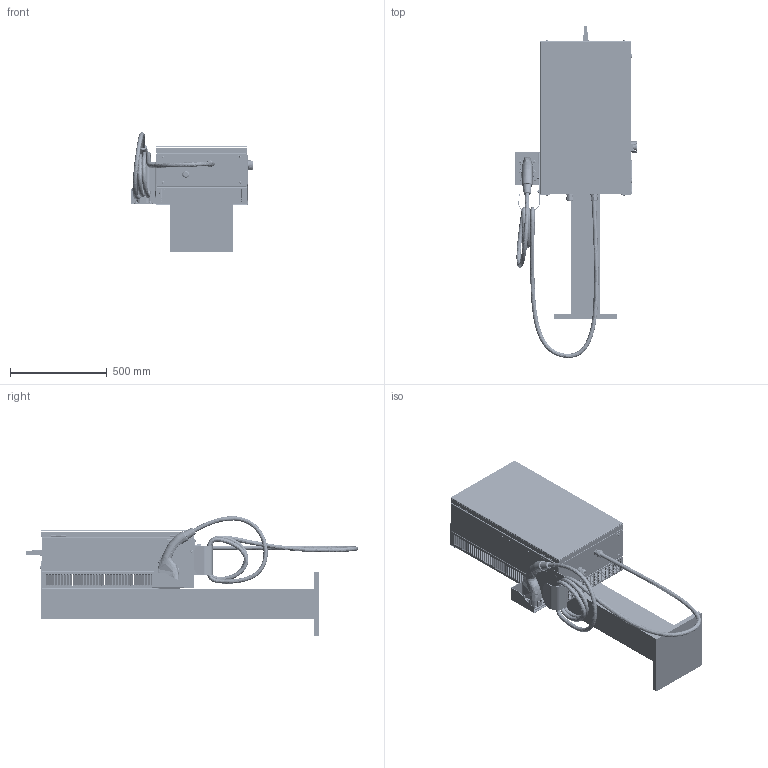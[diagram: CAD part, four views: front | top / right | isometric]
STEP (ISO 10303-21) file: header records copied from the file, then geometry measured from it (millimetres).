
FILE_DESCRIPTION((''),'2;1');
FILE_NAME('CPE100_STAND_ASM','2015-06-18T',('pcadiz'),(''),'PRO/ENGINEER BY PARAMETRIC TECHNOLOGY CORPORATION, 2011490','PRO/ENGINEER BY PARAMETRIC TECHNOLOGY CORPORATION, 2011490','');
FILE_SCHEMA(('CONFIG_CONTROL_DESIGN'));
Length unit declared in the file: inch
Products named in the file (85): CPE100_STAND; NONE; CUT-EXTRUDE1_1_; _61391-881_DZI_STANDARD_ASM; 1C_J-6000_01; ZAMEK_ASM; 87550790_87550790; FXVIS012307; MKACC012635; CSETI013226; SOCKET_HEAD_CAP_SCREW_DIN_DIN_9; MKBRN012753_POSITION_DES_EPARGN; FLUSH_STUD_PMM2_PEM_FHS-M6-18_-; 62349-045_DZI_87933894; 61390-832_DZI_87554979; _32349-073_DZI_87925456; _32349-073_DZI_STANDARD_ASM; FXVIS000901; FXECR006540_EMILE_MAURIN_62609_; M32-CAP-1-SOLID1; M32___21_-LONG_BODY-1-SOLID1; M32___21_-LONG_BODY-1-SOLID2; ACPFL012705_ASM; CSETI012604; PART5_CHBRN012086; CSETI013050; _32514-034_DZI_STANDARD-762395; DEFLECTOR; _32514-034_DZI_STANDARD-956909_ASM; 87550792_87550792; MKACC012573; CSETI012550; CSETI013063; COLOBLINDM3X25; GOUJM6X12; GOUJM4X12; MKBRN012618; MKBRN012618_D_FAUT_ASM; BS-M4-2_SELF-CLINCHING_BLIND_FA; 61194-024_DZI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
Assembly tree (200 placements, depth 5):
  CPE100_STAND_ASM
    CPE100_STAND
    ASM0001_ASM
      ZAMEK_ASM  x2
        _61391-881_DZI_STANDARD_ASM
          NONE
          CUT-EXTRUDE1_1_
        1C_J-6000_01
      87550790_87550790  x2
      FXVIS012307  x6
      MKACC012635
      CSETI013226
      SOCKET_HEAD_CAP_SCREW_DIN_DIN_9  x22
      MKBRN012753_POSITION_DES_EPARGN
      _32349-073_DZI_STANDARD_ASM
        FLUSH_STUD_PMM2_PEM_FHS-M6-18_-  x12
        62349-045_DZI_87933894
        61390-832_DZI_87554979  x4
        _32349-073_DZI_87925456
      FXVIS000901  x2
      FXECR006540_EMILE_MAURIN_62609_  x8
      ACPFL012705_ASM  x2
        M32-CAP-1-SOLID1
        M32___21_-LONG_BODY-1-SOLID1
        M32___21_-LONG_BODY-1-SOLID2
      CSETI012604  x2
      PART5_CHBRN012086
      CSETI013050
      _32514-034_DZI_STANDARD-956909_ASM
        61390-832_DZI_87554979  x4
        _32514-034_DZI_STANDARD-762395
        DEFLECTOR  x2
        FLUSH_STUD_PMM2_PEM_FHS-M6-18_-
      87550792_87550792  x2
      MKACC012573
      CSETI012550  x2
      CSETI013063
      MKBRN012618_D_FAUT_ASM
        COLOBLINDM3X25  x4
        GOUJM6X12
        GOUJM4X12  x4
        MKBRN012618
      BS-M4-2_SELF-CLINCHING_BLIND_FA  x2
      _22349-042_DZI_87925460_ASM
        61194-024_DZI  x26
        _32349-072_DZI_STANDARD_ASM
          61194-024_DZI  x4
          61390-832_DZI_87554979  x4
          _32349-072_DZI_87925464
          32349-067_DZI_87925478  x4
          FLUSH_STUD_PMM2_PEM_FHS-M6-18_-  x2
        _32349-065_DZI_87933874_ASM
          _32349-065_DZI_87925472
          FLUSH_STUD_PMM2_PEM_FHS-M6-18_-
        _32349-066_DZI_87933872_ASM
          _32349-066_DZI_87925470
      MKBRN012560_D_FAUT_ASM
        MKBRN012560
        GOUJM6X15  x2
      ACPFL012259  x2
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Bounding box: 632.05 x 1715.7 x 617.7 mm (x, y, z)
Volume: 17287929.5 mm3; surface area: 8309971.4 mm2
Topology: 186 solids, 210 shells, 18596 faces, 60750 edges, 45452 vertices
Faces by surface type: plane 11775, cylinder 2714, extrusion 1873, cone 1279, torus 471, bspline 439, sphere 34, revolution 11
Entity records: 673128 total; most frequent: CARTESIAN_POINT 270188, ORIENTED_EDGE 95225, DIRECTION 62273, EDGE_CURVE 47678, VERTEX_POINT 36996, VECTOR 32058, LINE 30185, EDGE_LOOP 17535
